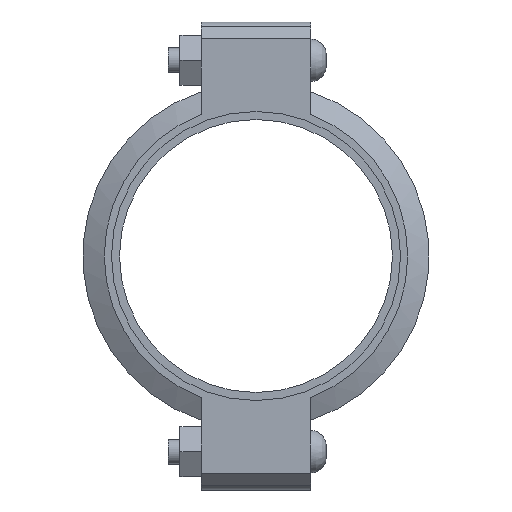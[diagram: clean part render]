
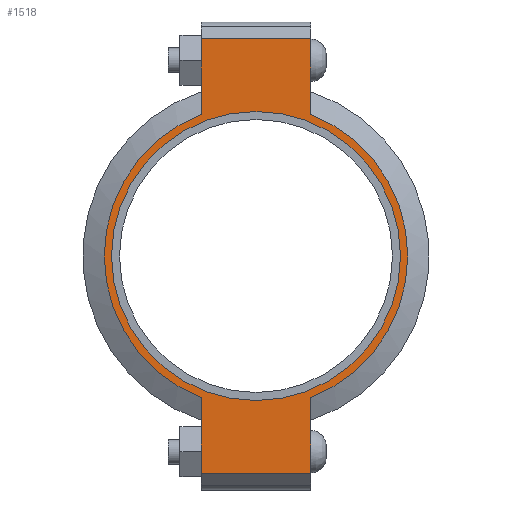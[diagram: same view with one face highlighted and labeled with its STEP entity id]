
A CAD part, left-side view. The second image highlights one B-rep face of the part: STEP entity #1518.
In plain terms, the highlighted planar face has unit normal (-1, 0, 0) as drawn and (0, 0, 1) by its records, which use the part's own axes.
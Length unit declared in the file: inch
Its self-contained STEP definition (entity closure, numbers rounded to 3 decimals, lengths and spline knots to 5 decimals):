
#142=LINE('',#2649,#235);
#150=LINE('',#2685,#243);
#157=LINE('',#2706,#250);
#166=LINE('',#2738,#259);
#167=LINE('',#2742,#260);
#168=LINE('',#2744,#261);
#235=VECTOR('',#2165,0.3937);
#243=VECTOR('',#2181,0.3937);
#250=VECTOR('',#2200,0.3937);
#259=VECTOR('',#2225,0.3937);
#260=VECTOR('',#2230,0.3937);
#261=VECTOR('',#2231,0.3937);
#317=FACE_BOUND('',#495,.T.);
#389=FACE_OUTER_BOUND('',#494,.T.);
#494=EDGE_LOOP('',(#1259,#1260,#1261,#1262,#1263,#1264,#1265,#1266));
#495=EDGE_LOOP('',(#1267));
#567=CIRCLE('',#1737,4.3125);
#593=CIRCLE('',#1796,4.53);
#594=CIRCLE('',#1797,4.53);
#659=VERTEX_POINT('',#2465);
#702=VERTEX_POINT('',#2646);
#703=VERTEX_POINT('',#2648);
#714=VERTEX_POINT('',#2680);
#715=VERTEX_POINT('',#2684);
#722=VERTEX_POINT('',#2703);
#723=VERTEX_POINT('',#2705);
#733=VERTEX_POINT('',#2741);
#734=VERTEX_POINT('',#2743);
#815=EDGE_CURVE('',#659,#659,#567,.T.);
#876=EDGE_CURVE('',#703,#702,#142,.T.);
#890=EDGE_CURVE('',#715,#714,#150,.T.);
#900=EDGE_CURVE('',#723,#722,#157,.T.);
#915=EDGE_CURVE('',#715,#702,#166,.T.);
#916=EDGE_CURVE('',#714,#723,#593,.T.);
#917=EDGE_CURVE('',#733,#722,#167,.T.);
#918=EDGE_CURVE('',#733,#734,#168,.T.);
#919=EDGE_CURVE('',#734,#703,#594,.T.);
#1259=ORIENTED_EDGE('',*,*,#915,.F.);
#1260=ORIENTED_EDGE('',*,*,#890,.T.);
#1261=ORIENTED_EDGE('',*,*,#916,.T.);
#1262=ORIENTED_EDGE('',*,*,#900,.T.);
#1263=ORIENTED_EDGE('',*,*,#917,.F.);
#1264=ORIENTED_EDGE('',*,*,#918,.T.);
#1265=ORIENTED_EDGE('',*,*,#919,.T.);
#1266=ORIENTED_EDGE('',*,*,#876,.T.);
#1267=ORIENTED_EDGE('',*,*,#815,.T.);
#1360=PLANE('',#1795);
#1518=ADVANCED_FACE('',(#389,#317),#1360,.T.);
#1737=AXIS2_PLACEMENT_3D('',#2467,#2041,#2042);
#1795=AXIS2_PLACEMENT_3D('',#2739,#2226,#2227);
#1796=AXIS2_PLACEMENT_3D('',#2740,#2228,#2229);
#1797=AXIS2_PLACEMENT_3D('',#2745,#2232,#2233);
#2041=DIRECTION('center_axis',(0.,0.,-1.));
#2042=DIRECTION('ref_axis',(-1.,0.,0.));
#2165=DIRECTION('',(-1.,0.,0.));
#2181=DIRECTION('',(1.,0.,0.));
#2200=DIRECTION('',(1.,0.,0.));
#2225=DIRECTION('',(0.,1.,0.));
#2226=DIRECTION('center_axis',(0.,0.,1.));
#2227=DIRECTION('ref_axis',(1.,0.,0.));
#2228=DIRECTION('center_axis',(0.,0.,1.));
#2229=DIRECTION('ref_axis',(-1.,0.,0.));
#2230=DIRECTION('',(0.,-1.,0.));
#2231=DIRECTION('',(-1.,0.,0.));
#2232=DIRECTION('center_axis',(0.,0.,1.));
#2233=DIRECTION('ref_axis',(-1.,0.,0.));
#2465=CARTESIAN_POINT('',(4.3125,0.,1.16));
#2467=CARTESIAN_POINT('Origin',(0.,0.,1.16));
#2646=CARTESIAN_POINT('',(-6.485,1.63,1.16));
#2648=CARTESIAN_POINT('',(-4.22658,1.63,1.16));
#2649=CARTESIAN_POINT('',(-6.985,1.63,1.16));
#2680=CARTESIAN_POINT('',(-4.22658,-1.63,1.16));
#2684=CARTESIAN_POINT('',(-6.485,-1.63,1.16));
#2685=CARTESIAN_POINT('',(6.985,-1.63,1.16));
#2703=CARTESIAN_POINT('',(6.485,-1.63,1.16));
#2705=CARTESIAN_POINT('',(4.22658,-1.63,1.16));
#2706=CARTESIAN_POINT('',(6.985,-1.63,1.16));
#2738=CARTESIAN_POINT('',(-6.485,0.815,1.16));
#2739=CARTESIAN_POINT('Origin',(0.,0.,
1.16));
#2740=CARTESIAN_POINT('Origin',(0.,0.,1.16));
#2741=CARTESIAN_POINT('',(6.485,1.63,1.16));
#2742=CARTESIAN_POINT('',(6.485,-0.815,1.16));
#2743=CARTESIAN_POINT('',(4.22658,1.63,1.16));
#2744=CARTESIAN_POINT('',(-6.985,1.63,1.16));
#2745=CARTESIAN_POINT('Origin',(0.,0.,1.16));
